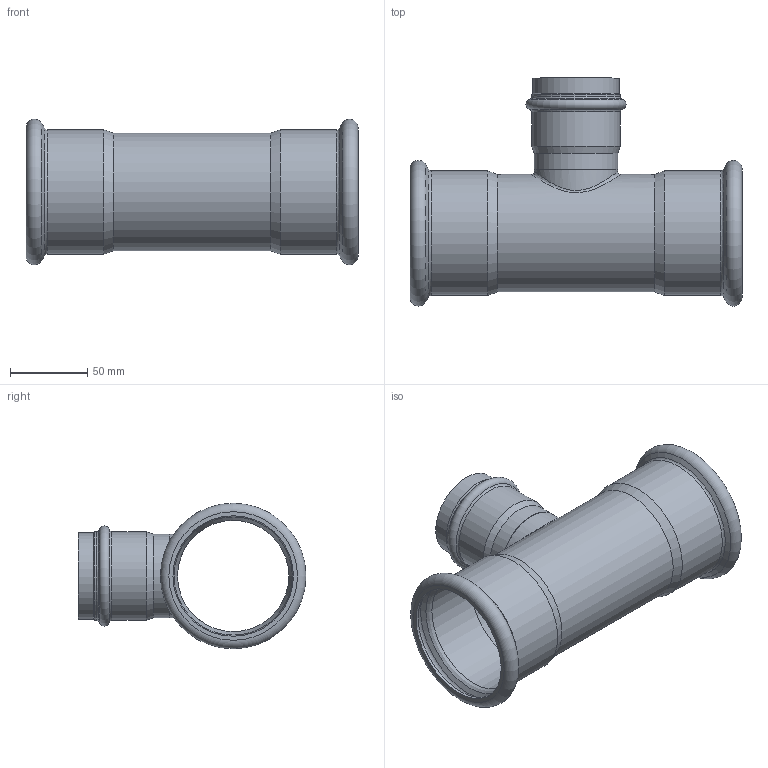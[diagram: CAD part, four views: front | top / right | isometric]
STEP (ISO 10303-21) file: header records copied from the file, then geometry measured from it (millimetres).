
FILE_DESCRIPTION((''),'2;1');
FILE_NAME('G:\Nirosan-Schmiedefeld\Technics\CAD\001 Serie 9.000\076\69130765476(3).stp','2018-10-16T10:30:32',('herberg'),(''),'Autodesk Inventor 2009','Autodesk Inventor 2009','');
FILE_SCHEMA(('AUTOMOTIVE_DESIGN { 1 0 10303 214 1 1 1 1 }'));
Length unit declared in the file: millimetre
Products named in the file (3): 69130765476(3); LM_69130765476(1); 6924354HM(1)
Assembly tree (2 placements, depth 2):
  69130765476(3)
    LM_69130765476(1)
    6924354HM(1)
Bounding box: 215 x 147.65 x 94.3 mm (x, y, z)
Volume: 126365.1 mm3; surface area: 134931.7 mm2
Topology: 2 solids, 2 shells, 53 faces, 107 edges, 60 vertices
Faces by surface type: cylinder 17, cone 13, bspline 9, plane 7, torus 7
Full cylindrical faces by diameter (mm): 50 x1, 51 x1, 54 x2, 54.35 x2, 55.95 x1, 57.35 x2, 72.1 x1, 76.1 x1, 76.6 x2, 78 x2, 80.6 x2
Entity records: 3242 total; most frequent: CARTESIAN_POINT 2279, DIRECTION 200, ORIENTED_EDGE 112, EDGE_LOOP 106, AXIS2_PLACEMENT_3D 100, EDGE_CURVE 56, VERTEX_POINT 54, FACE_OUTER_BOUND 53
